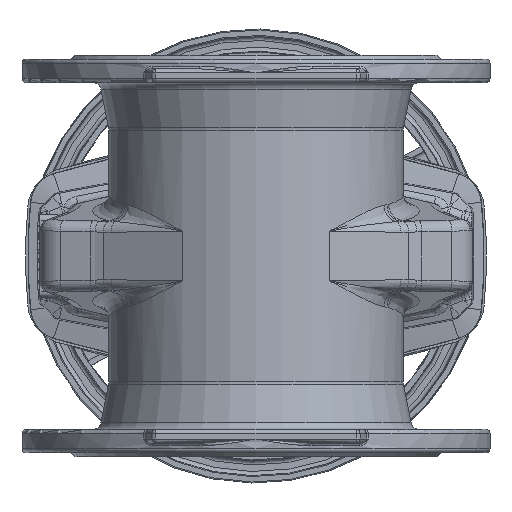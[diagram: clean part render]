
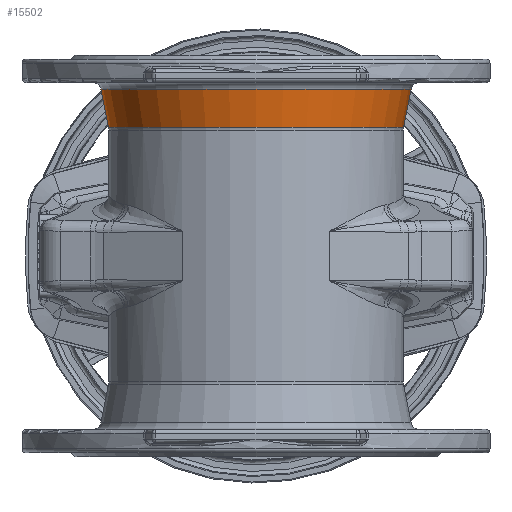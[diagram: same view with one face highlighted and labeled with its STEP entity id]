
A CAD part, front view. The second image highlights one B-rep face of the part: STEP entity #15502.
In plain terms, the highlighted conical face has half-angle 11 degrees and reference radius 112.61 mm.
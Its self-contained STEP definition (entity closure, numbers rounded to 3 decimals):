
#7807 = FACE_OUTER_BOUND ( 'NONE', #34172, .T. ) ;
#7820 = FACE_BOUND ( 'NONE', #34624, .T. ) ;
#7822 = CONICAL_SURFACE ( 'NONE', #10087, 112.61, 0.192 ) ;
#10087 = AXIS2_PLACEMENT_3D ( 'NONE', #19363, #19364, #19340 ) ;
#10841 = AXIS2_PLACEMENT_3D ( 'NONE', #24909, #24910, #24911 ) ;
#10848 = AXIS2_PLACEMENT_3D ( 'NONE', #24986, #24987, #24988 ) ;
#12593 = ORIENTED_EDGE ( 'NONE', *, *, #17337, .T. ) ;
#12594 = ORIENTED_EDGE ( 'NONE', *, *, #17321, .F. ) ;
#15502 = ADVANCED_FACE ( 'NONE', ( #7820, #7807 ), #7822, .T. ) ;
#17321 = EDGE_CURVE ( 'NONE', #26228, #26228, #25302, .T. ) ;
#17337 = EDGE_CURVE ( 'NONE', #26234, #26234, #25319, .T. ) ;
#19340 = DIRECTION ( 'NONE',  ( 1., 0., 0. ) ) ;
#19363 = CARTESIAN_POINT ( 'NONE',  ( 0., 0., 121.145 ) ) ;
#19364 = DIRECTION ( 'NONE',  ( 0., 0., 1. ) ) ;
#24909 = CARTESIAN_POINT ( 'NONE',  ( 0., 0., 121.145 ) ) ;
#24910 = DIRECTION ( 'NONE',  ( 0., 0., 1. ) ) ;
#24911 = DIRECTION ( 'NONE',  ( 1., 0., 0. ) ) ;
#24986 = CARTESIAN_POINT ( 'NONE',  ( 0., 0., 93.417 ) ) ;
#24987 = DIRECTION ( 'NONE',  ( 0., 0., 1. ) ) ;
#24988 = DIRECTION ( 'NONE',  ( 1., 0., 0. ) ) ;
#25302 = CIRCLE ( 'NONE', #10841, 112.61 ) ;
#25319 = CIRCLE ( 'NONE', #10848, 107.22 ) ;
#26228 = VERTEX_POINT ( 'NONE', #33546 ) ;
#26234 = VERTEX_POINT ( 'NONE', #33552 ) ;
#33546 = CARTESIAN_POINT ( 'NONE',  ( 112.61, 0., 121.145 ) ) ;
#33552 = CARTESIAN_POINT ( 'NONE',  ( 107.22, 0., 93.417 ) ) ;
#34172 = EDGE_LOOP ( 'NONE', ( #12594 ) ) ;
#34624 = EDGE_LOOP ( 'NONE', ( #12593 ) ) ;
